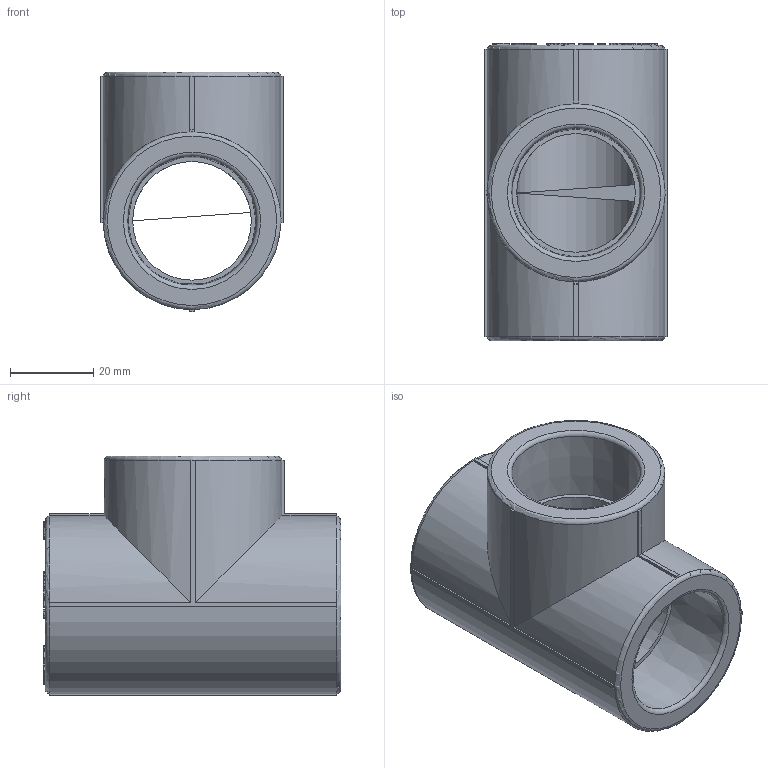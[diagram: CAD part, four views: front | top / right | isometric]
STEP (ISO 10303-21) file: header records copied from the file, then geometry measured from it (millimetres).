
FILE_DESCRIPTION(('STEP AP203'), '1');
FILE_NAME('ÂÐ.752241.028 - VTp.731.0.032', '', ('UNSPECIFIED'), ('UNSPECIFIED'), 'C3D Converter', 'C3D Toolkit', '');
FILE_SCHEMA(('CONFIG_CONTROL_DESIGN'));
Length unit declared in the file: millimetre
Products named in the file (1): ВР.752241.028
Bounding box: 43.8 x 71.5 x 57.65 mm (x, y, z)
Volume: 60659.6 mm3; surface area: 21552 mm2
Topology: 1 solids, 1 shells, 1060 faces, 2975 edges, 1973 vertices
Faces by surface type: extrusion 623, plane 391, cylinder 37, torus 6, cone 3
Full cylindrical faces by diameter (mm): 6 x1, 28.5 x2
Entity records: 38892 total; most frequent: CARTESIAN_POINT 14877, ORIENTED_EDGE 5924, EDGE_CURVE 2962, DIRECTION 2958, VECTOR 2000, VERTEX_POINT 1973, B_SPLINE_CURVE_WITH_KNOTS 1871, LINE 1377
